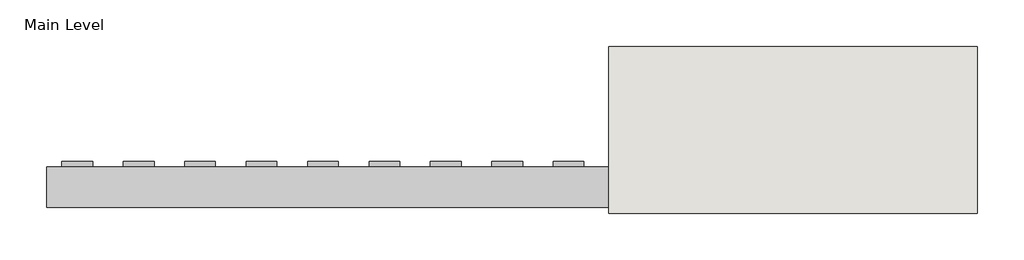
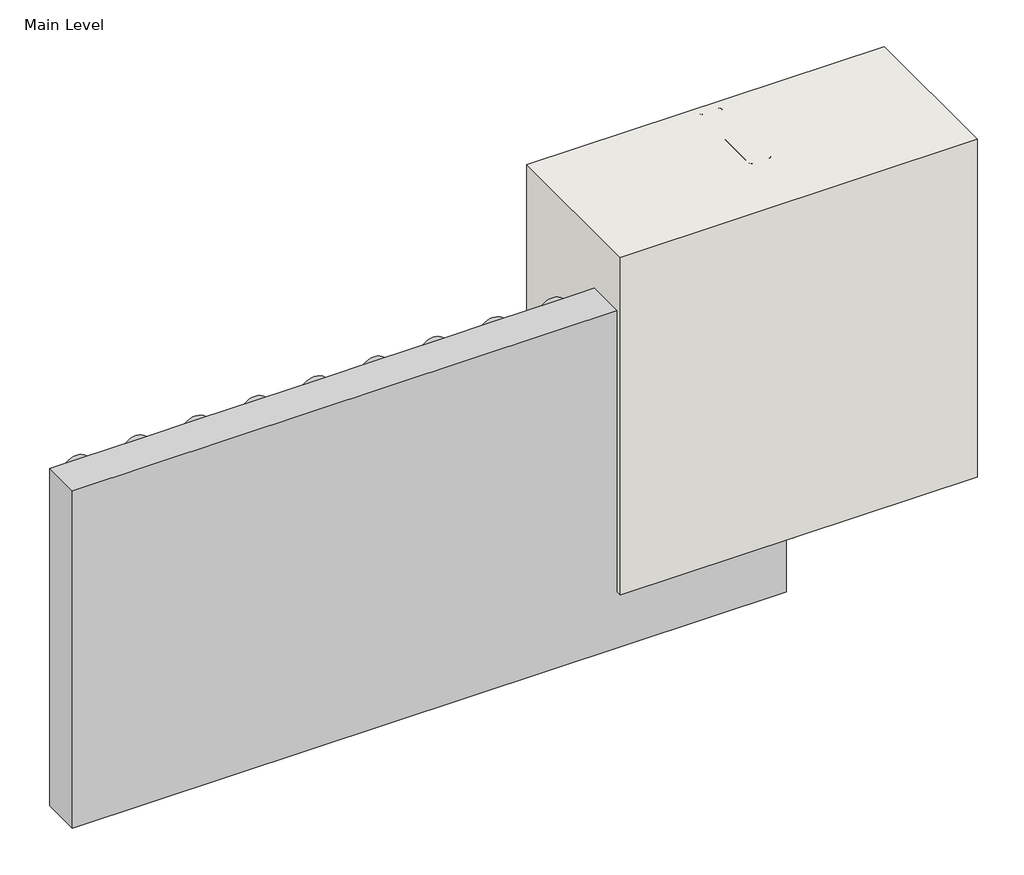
# One storey, incomplete: 10 proxies, 1 wall.
"""IFC4 building model written with IfcOpenShell, lengths in millimetres."""

from ifc_helpers import new_model, si_unit, origin, origin_with_axes, place, context, project, spatial, polyline, outline, extrude, transform, mapped, element, save
from components import generic_models_0ed8512b, generic_models_38adcc71, generic_models_03ec6e0e, proxy_50213ae0, proxy_5fc139d0, finish_coat_valley_finish_coat_valley_5edf1750, proxy_d4c17246

model = new_model("IFC4")

# Units and contexts
model_context = context("Model", 3, world=origin())
ifc_project = project(units=[si_unit("LENGTHUNIT", "METRE", prefix="MILLI")], contexts=[model_context])

# Site, building, storey
site = spatial("IfcSite", under=ifc_project)
building = spatial("IfcBuilding", under=site)
storey = spatial("IfcBuildingStorey", under=building, Name="Main Level", Elevation=0.0)

# Proxies
placement = place(None, origin())
generic_models_shape = generic_models_0ed8512b(model_context)
element("IfcBuildingElementProxy", 1, Name="Durabond Generic Model Insulation Adhesive Flat : Durabond Generic Model Insulation Adhesive Flat", ObjectType="Durabond Generic Model Insulation Adhesive Flat : Durabond Generic Model Insulation Adhesive Flat", at=placement, inside=storey, context=model_context, shape_type="MappedRepresentation", body=[
    mapped(generic_models_shape, transform((26758.2539273, 627.6316297, 0.0), x_axis=(1.0, 0.0, 0.0), y_axis=(0.0, 1.0, 0.0), z_axis=(0.0, 0.0, 1.0))),
])
element("IfcBuildingElementProxy", 2, Name="Durabond Generic Model Insulation Adhesive Flat : Durabond Generic Model Insulation Adhesive Flat", ObjectType="Durabond Generic Model Insulation Adhesive Flat : Durabond Generic Model Insulation Adhesive Flat", at=placement, inside=storey, context=model_context, shape_type="MappedRepresentation", body=[
    mapped(generic_models_shape, transform((26656.6539273, 627.6316297, 0.0), x_axis=(1.0, 0.0, 0.0), y_axis=(0.0, 1.0, 0.0), z_axis=(0.0, 0.0, 1.0))),
])
element("IfcBuildingElementProxy", 3, Name="Durabond Generic Model Insulation Adhesive Flat : Durabond Generic Model Insulation Adhesive Flat", ObjectType="Durabond Generic Model Insulation Adhesive Flat : Durabond Generic Model Insulation Adhesive Flat", at=placement, inside=storey, context=model_context, shape_type="MappedRepresentation", body=[
    mapped(generic_models_shape, transform((26555.0539273, 627.6316297, 0.0), x_axis=(1.0, 0.0, 0.0), y_axis=(0.0, 1.0, 0.0), z_axis=(0.0, 0.0, 1.0))),
])
generic_models_2_shape = generic_models_38adcc71(model_context)
element("IfcBuildingElementProxy", 4, Name="CRAi Generic Model Backer Rod and Sealant : CRAi Generic Model Backer Rod and Sealant", ObjectType="CRAi Generic Model Backer Rod and Sealant : CRAi Generic Model Backer Rod and Sealant", at=placement, inside=storey, context=model_context, shape_type="MappedRepresentation", body=[
    mapped(generic_models_2_shape, transform((26824.9289273, 570.4816297, 0.0), x_axis=(1.0, 0.0, 0.0), y_axis=(0.0, 1.0, 0.0), z_axis=(0.0, 0.0, 1.0))),
])
generic_models_3_shape = generic_models_03ec6e0e(model_context)
element("IfcBuildingElementProxy", 5, Name="CRAi Generic Model Drywall Screw : CRAi Generic Model Drywall Screw", ObjectType="CRAi Generic Model Drywall Screw : CRAi Generic Model Drywall Screw", at=placement, inside=storey, context=model_context, shape_type="MappedRepresentation", body=[
    mapped(generic_models_3_shape, transform((26834.4539273, 633.9816297, 584.2), x_axis=(1.0, 0.0, 0.0), y_axis=(0.0, 0.0, 1.0), z_axis=(0.0, -1.0, 0.0))),
])
element("IfcBuildingElementProxy", 6, Name="CRAi Generic Model Drywall Screw : CRAi Generic Model Drywall Screw", ObjectType="CRAi Generic Model Drywall Screw : CRAi Generic Model Drywall Screw", at=placement, inside=storey, context=model_context, shape_type="MappedRepresentation", body=[
    mapped(generic_models_3_shape, transform((26815.4039273, 633.9816297, 584.2), x_axis=(1.0, 0.0, 0.0), y_axis=(0.0, 0.0, 1.0), z_axis=(0.0, -1.0, 0.0))),
])
proxy_shape = proxy_50213ae0(model_context)
element("IfcBuildingElementProxy", 7, Name="Durabond Generic Model Quantum Select 5-0 Insulation Board : 3\"", ObjectType="Durabond Generic Model Quantum Select 5-0 Insulation Board : 3\"", at=placement, inside=storey, context=model_context, shape_type="MappedRepresentation", body=[
    mapped(proxy_shape, transform((26199.4539273, 624.4566297, 203.2), x_axis=(1.0, 0.0, 0.0), y_axis=(0.0, 0.0, 1.0), z_axis=(0.0, -1.0, 0.0))),
])
proxy_2_shape = proxy_5fc139d0(model_context)
element("IfcBuildingElementProxy", 8, Name="Durabond Generic Model Barrier Seam Tape Straight : 4\" Barrier Seam Tape", ObjectType="Durabond Generic Model Barrier Seam Tape Straight : 4\" Barrier Seam Tape", at=placement, inside=storey, context=model_context, shape_type="MappedRepresentation", body=[
    mapped(proxy_2_shape, transform((26875.7289273, 633.9816297, 0.0), x_axis=(1.0, 0.0, 0.0), y_axis=(0.0, 1.0, 0.0), z_axis=(0.0, 0.0, 1.0))),
])
finish_coat_valley_finish_coat_valley_shape = finish_coat_valley_finish_coat_valley_5edf1750(model_context)
element("IfcBuildingElementProxy", 9, Name="Finish Coat Valley : Finish Coat Valley", ObjectType="Finish Coat Valley : Finish Coat Valley", at=placement, inside=storey, context=model_context, shape_type="MappedRepresentation", body=[
    mapped(finish_coat_valley_finish_coat_valley_shape, transform((0.0, 0.0, 0.0), x_axis=(1.0, 0.0, 0.0), y_axis=(0.0, 1.0, 0.0), z_axis=(0.0, 0.0, 1.0))),
])
proxy_3_shape = proxy_d4c17246(model_context)
element("IfcBuildingElementProxy", 10, Name="CRAi Generic Model Metal Stud : Metal Framing Stud - 1\" x 3.5\"", ObjectType="CRAi Generic Model Metal Stud : Metal Framing Stud - 1\" x 3.5\"", at=placement, inside=storey, context=model_context, shape_type="MappedRepresentation", body=[
    mapped(proxy_3_shape, transform((26824.9289273, 726.0566297, 0.0), x_axis=(1.0, 0.0, 0.0), y_axis=(0.0, 1.0, 0.0), z_axis=(0.0, 0.0, 1.0))),
])

# Wall
element("IfcWall", 11, ObjectType="189mm (7.5”) EIFS Field Applied on Mtl. Stud Layer - 50mm Grooved Insulation Board Metal Stud Wall", at=placement, inside=storey, context=model_context, shape_type="SweptSolid", body=[
    extrude(outline(polyline([(27129.7289273, 538.7316297), (26520.1289273, 538.7316297), (26520.1289273, 814.9566297), (27129.7289273, 814.9566297), (27129.7289273, 538.7316297)])), origin_with_axes(), (0.0, 0.0, 1.0), 609.6),
])

save(model, "model.ifc")
